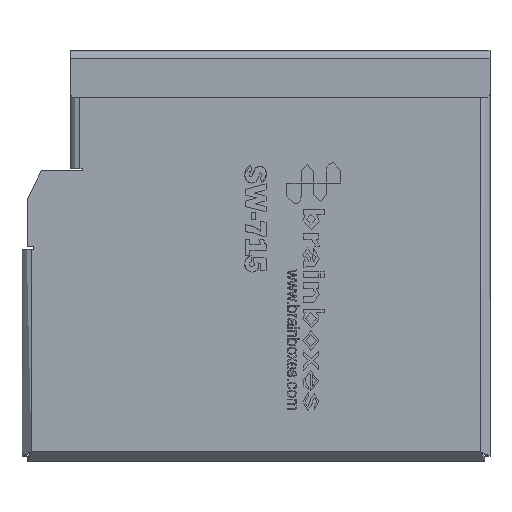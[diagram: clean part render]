
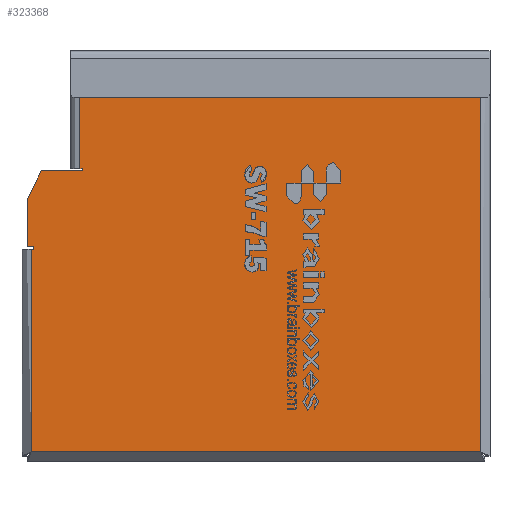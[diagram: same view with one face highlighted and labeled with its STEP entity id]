
A CAD part, top view. The second image highlights one B-rep face of the part: STEP entity #323368.
In plain terms, the highlighted planar face has unit normal (0, 0, 1).
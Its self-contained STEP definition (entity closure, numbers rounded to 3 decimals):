
#323303 = VERTEX_POINT('',#323304);
#323304 = CARTESIAN_POINT('',(-41.15,43.85,21.));
#323310 = EDGE_CURVE('',#323311,#323303,#323313,.T.);
#323311 = VERTEX_POINT('',#323312);
#323312 = CARTESIAN_POINT('',(43.85,43.85,21.));
#323313 = LINE('',#323314,#323315);
#323314 = CARTESIAN_POINT('',(44.85,43.85,21.));
#323315 = VECTOR('',#323316,1.);
#323316 = DIRECTION('',(-1.,0.,0.));
#323335 = VERTEX_POINT('',#323336);
#323336 = CARTESIAN_POINT('',(-49.35,19.75,21.));
#323342 = EDGE_CURVE('',#323343,#323335,#323345,.T.);
#323343 = VERTEX_POINT('',#323344);
#323344 = CARTESIAN_POINT('',(-40.65,19.75,21.));
#323345 = LINE('',#323346,#323347);
#323346 = CARTESIAN_POINT('',(-42.15,19.75,21.));
#323347 = VECTOR('',#323348,1.);
#323348 = DIRECTION('',(-1.,-0.,0.));
#323368 = ADVANCED_FACE('',(#323369),#323457,.T.);
#323369 = FACE_BOUND('',#323370,.T.);
#323370 = EDGE_LOOP('',(#323371,#323379,#323387,#323395,#323403,#323411,
    #323419,#323427,#323433,#323434,#323442,#323450,#323456));
#323371 = ORIENTED_EDGE('',*,*,#323372,.F.);
#323372 = EDGE_CURVE('',#323373,#323335,#323375,.T.);
#323373 = VERTEX_POINT('',#323374);
#323374 = CARTESIAN_POINT('',(-52.35,13.75,21.));
#323375 = LINE('',#323376,#323377);
#323376 = CARTESIAN_POINT('',(-49.35,19.75,21.));
#323377 = VECTOR('',#323378,1.);
#323378 = DIRECTION('',(0.447,0.894,0.));
#323379 = ORIENTED_EDGE('',*,*,#323380,.F.);
#323380 = EDGE_CURVE('',#323381,#323373,#323383,.T.);
#323381 = VERTEX_POINT('',#323382);
#323382 = CARTESIAN_POINT('',(-52.35,3.65,21.));
#323383 = LINE('',#323384,#323385);
#323384 = CARTESIAN_POINT('',(-52.35,3.65,21.));
#323385 = VECTOR('',#323386,1.);
#323386 = DIRECTION('',(0.,1.,0.));
#323387 = ORIENTED_EDGE('',*,*,#323388,.T.);
#323388 = EDGE_CURVE('',#323381,#323389,#323391,.T.);
#323389 = VERTEX_POINT('',#323390);
#323390 = CARTESIAN_POINT('',(-50.95,3.65,21.));
#323391 = LINE('',#323392,#323393);
#323392 = CARTESIAN_POINT('',(-3.8,3.65,21.));
#323393 = VECTOR('',#323394,1.);
#323394 = DIRECTION('',(1.,0.,0.));
#323395 = ORIENTED_EDGE('',*,*,#323396,.T.);
#323396 = EDGE_CURVE('',#323389,#323397,#323399,.T.);
#323397 = VERTEX_POINT('',#323398);
#323398 = CARTESIAN_POINT('',(-50.95,3.15,21.));
#323399 = LINE('',#323400,#323401);
#323400 = CARTESIAN_POINT('',(-50.95,1.5,21.));
#323401 = VECTOR('',#323402,1.);
#323402 = DIRECTION('',(0.,-1.,0.));
#323403 = ORIENTED_EDGE('',*,*,#323404,.T.);
#323404 = EDGE_CURVE('',#323397,#323405,#323407,.T.);
#323405 = VERTEX_POINT('',#323406);
#323406 = CARTESIAN_POINT('',(-51.45,3.15,21.));
#323407 = LINE('',#323408,#323409);
#323408 = CARTESIAN_POINT('',(-3.8,3.15,21.));
#323409 = VECTOR('',#323410,1.);
#323410 = DIRECTION('',(-1.,-0.,0.));
#323411 = ORIENTED_EDGE('',*,*,#323412,.F.);
#323412 = EDGE_CURVE('',#323413,#323405,#323415,.T.);
#323413 = VERTEX_POINT('',#323414);
#323414 = CARTESIAN_POINT('',(-51.45,-39.85,21.));
#323415 = LINE('',#323416,#323417);
#323416 = CARTESIAN_POINT('',(-51.45,3.15,21.));
#323417 = VECTOR('',#323418,1.);
#323418 = DIRECTION('',(0.,1.,0.));
#323419 = ORIENTED_EDGE('',*,*,#323420,.F.);
#323420 = EDGE_CURVE('',#323421,#323413,#323423,.T.);
#323421 = VERTEX_POINT('',#323422);
#323422 = CARTESIAN_POINT('',(43.85,-39.85,21.));
#323423 = LINE('',#323424,#323425);
#323424 = CARTESIAN_POINT('',(-52.309,-39.85,21.));
#323425 = VECTOR('',#323426,1.);
#323426 = DIRECTION('',(-1.,0.,0.));
#323427 = ORIENTED_EDGE('',*,*,#323428,.F.);
#323428 = EDGE_CURVE('',#323311,#323421,#323429,.T.);
#323429 = LINE('',#323430,#323431);
#323430 = CARTESIAN_POINT('',(43.85,-40.709,21.));
#323431 = VECTOR('',#323432,1.);
#323432 = DIRECTION('',(0.,-1.,0.));
#323433 = ORIENTED_EDGE('',*,*,#323310,.T.);
#323434 = ORIENTED_EDGE('',*,*,#323435,.F.);
#323435 = EDGE_CURVE('',#323436,#323303,#323438,.T.);
#323436 = VERTEX_POINT('',#323437);
#323437 = CARTESIAN_POINT('',(-41.15,20.25,21.));
#323438 = LINE('',#323439,#323440);
#323439 = CARTESIAN_POINT('',(-41.15,43.85,21.));
#323440 = VECTOR('',#323441,1.);
#323441 = DIRECTION('',(0.,1.,0.));
#323442 = ORIENTED_EDGE('',*,*,#323443,.T.);
#323443 = EDGE_CURVE('',#323436,#323444,#323446,.T.);
#323444 = VERTEX_POINT('',#323445);
#323445 = CARTESIAN_POINT('',(-40.65,20.25,21.));
#323446 = LINE('',#323447,#323448);
#323447 = CARTESIAN_POINT('',(-3.8,20.25,21.));
#323448 = VECTOR('',#323449,1.);
#323449 = DIRECTION('',(1.,0.,0.));
#323450 = ORIENTED_EDGE('',*,*,#323451,.T.);
#323451 = EDGE_CURVE('',#323444,#323343,#323452,.T.);
#323452 = LINE('',#323453,#323454);
#323453 = CARTESIAN_POINT('',(-40.65,1.5,21.));
#323454 = VECTOR('',#323455,1.);
#323455 = DIRECTION('',(0.,-1.,0.));
#323456 = ORIENTED_EDGE('',*,*,#323342,.T.);
#323457 = PLANE('',#323458);
#323458 = AXIS2_PLACEMENT_3D('',#323459,#323460,#323461);
#323459 = CARTESIAN_POINT('',(-3.8,1.5,21.));
#323460 = DIRECTION('',(0.,0.,1.));
#323461 = DIRECTION('',(1.,0.,0.));
